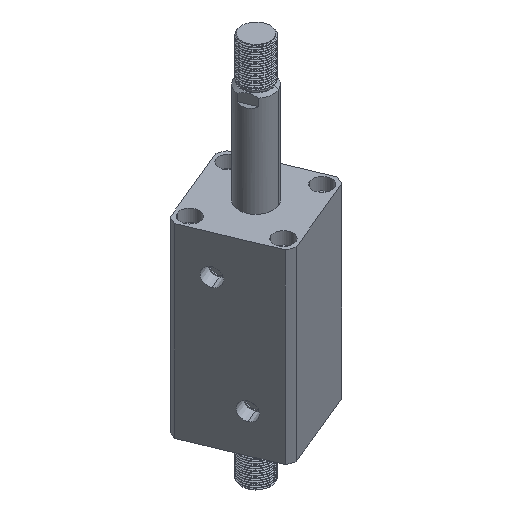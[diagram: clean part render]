
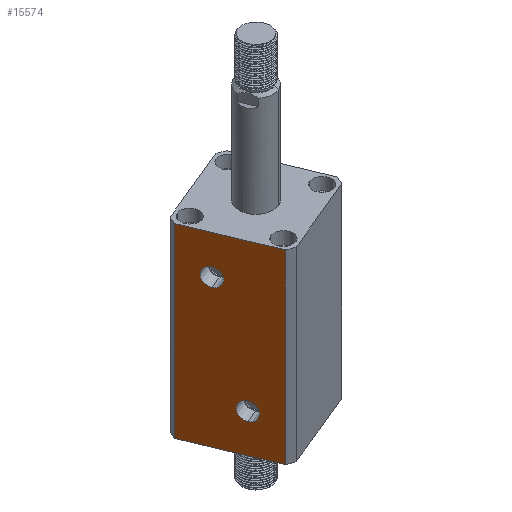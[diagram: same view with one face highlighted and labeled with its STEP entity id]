
A CAD part, isometric view. The second image highlights one B-rep face of the part: STEP entity #15574.
In plain terms, the highlighted planar face has unit normal (-0.924, -0.383, 0) as drawn and (0, 1, 0) by its records, which use the part's own axes.
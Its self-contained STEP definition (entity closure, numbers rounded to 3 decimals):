
#212 = EDGE_CURVE ( 'NONE', #1955, #4485, #7285, .T. ) ;
#334 = EDGE_CURVE ( 'NONE', #16403, #16516, #6435, .T. ) ;
#492 = DIRECTION ( 'NONE',  ( -1., 0., 0. ) ) ;
#505 = CARTESIAN_POINT ( 'NONE',  ( -35., 35., 135. ) ) ;
#574 = EDGE_CURVE ( 'NONE', #13343, #1855, #16050, .T. ) ;
#705 = VECTOR ( 'NONE', #8515, 1000. ) ;
#821 = CARTESIAN_POINT ( 'NONE',  ( 10., 35., 107. ) ) ;
#1001 = VECTOR ( 'NONE', #492, 1000. ) ;
#1136 = LINE ( 'NONE', #9906, #705 ) ;
#1432 = FACE_BOUND ( 'NONE', #15073, .T. ) ;
#1561 = AXIS2_PLACEMENT_3D ( 'NONE', #13019, #4903, #14407 ) ;
#1665 = ORIENTED_EDGE ( 'NONE', *, *, #8867, .F. ) ;
#1855 = VERTEX_POINT ( 'NONE', #5509 ) ;
#1868 = DIRECTION ( 'NONE',  ( 0., 0., -1. ) ) ;
#1955 = VERTEX_POINT ( 'NONE', #13696 ) ;
#2185 = DIRECTION ( 'NONE',  ( 0., 0., 1. ) ) ;
#3162 = CIRCLE ( 'NONE', #5890, 6.532 ) ;
#3761 = CARTESIAN_POINT ( 'NONE',  ( -10., 35., 28. ) ) ;
#3817 = DIRECTION ( 'NONE',  ( 0., 0., 1. ) ) ;
#3878 = DIRECTION ( 'NONE',  ( 0., 1., 0. ) ) ;
#3932 = AXIS2_PLACEMENT_3D ( 'NONE', #3761, #3878, #3817 ) ;
#4485 = VERTEX_POINT ( 'NONE', #5767 ) ;
#4588 = LINE ( 'NONE', #8534, #1001 ) ;
#4619 = EDGE_CURVE ( 'NONE', #16403, #11564, #1136, .T. ) ;
#4745 = EDGE_LOOP ( 'NONE', ( #17336, #14105, #7708, #6779 ) ) ;
#4903 = DIRECTION ( 'NONE',  ( 0., 1., 0. ) ) ;
#4999 = FACE_BOUND ( 'NONE', #13500, .T. ) ;
#5509 = CARTESIAN_POINT ( 'NONE',  ( 10., 35., 113.532 ) ) ;
#5574 = DIRECTION ( 'NONE',  ( 0., 0., 1. ) ) ;
#5767 = CARTESIAN_POINT ( 'NONE',  ( -10., 35., 21.468 ) ) ;
#5890 = AXIS2_PLACEMENT_3D ( 'NONE', #821, #10252, #2185 ) ;
#5993 = CARTESIAN_POINT ( 'NONE',  ( -30.615, 35., -165. ) ) ;
#6435 = LINE ( 'NONE', #12081, #13687 ) ;
#6534 = CARTESIAN_POINT ( 'NONE',  ( -30.615, 35., 0. ) ) ;
#6779 = ORIENTED_EDGE ( 'NONE', *, *, #9775, .F. ) ;
#6918 = CARTESIAN_POINT ( 'NONE',  ( 30.615, 35., 135. ) ) ;
#7285 = CIRCLE ( 'NONE', #3932, 6.532 ) ;
#7708 = ORIENTED_EDGE ( 'NONE', *, *, #15068, .F. ) ;
#8325 = AXIS2_PLACEMENT_3D ( 'NONE', #15119, #12337, #5574 ) ;
#8515 = DIRECTION ( 'NONE',  ( 0., 0., 1. ) ) ;
#8534 = CARTESIAN_POINT ( 'NONE',  ( -35., 35., 135. ) ) ;
#8690 = DIRECTION ( 'NONE',  ( 0., 0., -1. ) ) ;
#8768 = ORIENTED_EDGE ( 'NONE', *, *, #16367, .F. ) ;
#8801 = ORIENTED_EDGE ( 'NONE', *, *, #574, .F. ) ;
#8867 = EDGE_CURVE ( 'NONE', #1855, #13343, #3162, .T. ) ;
#9775 = EDGE_CURVE ( 'NONE', #11564, #15955, #4588, .T. ) ;
#9816 = PLANE ( 'NONE',  #10772 ) ;
#9906 = CARTESIAN_POINT ( 'NONE',  ( 30.615, 35., -165. ) ) ;
#9936 = DIRECTION ( 'NONE',  ( 0., -1., 0. ) ) ;
#9945 = CARTESIAN_POINT ( 'NONE',  ( 10., 35., 100.468 ) ) ;
#10252 = DIRECTION ( 'NONE',  ( 0., 1., 0. ) ) ;
#10772 = AXIS2_PLACEMENT_3D ( 'NONE', #505, #9936, #1868 ) ;
#11564 = VERTEX_POINT ( 'NONE', #6918 ) ;
#11775 = FACE_OUTER_BOUND ( 'NONE', #4745, .T. ) ;
#11978 = ORIENTED_EDGE ( 'NONE', *, *, #212, .F. ) ;
#12081 = CARTESIAN_POINT ( 'NONE',  ( -35., 35., 0. ) ) ;
#12337 = DIRECTION ( 'NONE',  ( 0., 1., 0. ) ) ;
#12881 = DIRECTION ( 'NONE',  ( -1., 0., 0. ) ) ;
#13019 = CARTESIAN_POINT ( 'NONE',  ( -10., 35., 28. ) ) ;
#13343 = VERTEX_POINT ( 'NONE', #9945 ) ;
#13481 = CIRCLE ( 'NONE', #1561, 6.532 ) ;
#13500 = EDGE_LOOP ( 'NONE', ( #1665, #8801 ) ) ;
#13687 = VECTOR ( 'NONE', #12881, 1000. ) ;
#13696 = CARTESIAN_POINT ( 'NONE',  ( -10., 35., 34.532 ) ) ;
#14105 = ORIENTED_EDGE ( 'NONE', *, *, #334, .T. ) ;
#14407 = DIRECTION ( 'NONE',  ( 0., 0., 1. ) ) ;
#15068 = EDGE_CURVE ( 'NONE', #15955, #16516, #16933, .T. ) ;
#15073 = EDGE_LOOP ( 'NONE', ( #11978, #8768 ) ) ;
#15119 = CARTESIAN_POINT ( 'NONE',  ( 10., 35., 107. ) ) ;
#15574 = ADVANCED_FACE ( 'NONE', ( #1432, #4999, #11775 ), #9816, .F. ) ;
#15785 = CARTESIAN_POINT ( 'NONE',  ( 30.615, 35., 0. ) ) ;
#15955 = VERTEX_POINT ( 'NONE', #17423 ) ;
#16050 = CIRCLE ( 'NONE', #8325, 6.532 ) ;
#16367 = EDGE_CURVE ( 'NONE', #4485, #1955, #13481, .T. ) ;
#16403 = VERTEX_POINT ( 'NONE', #15785 ) ;
#16516 = VERTEX_POINT ( 'NONE', #6534 ) ;
#16933 = LINE ( 'NONE', #5993, #17368 ) ;
#17336 = ORIENTED_EDGE ( 'NONE', *, *, #4619, .F. ) ;
#17368 = VECTOR ( 'NONE', #8690, 1000. ) ;
#17423 = CARTESIAN_POINT ( 'NONE',  ( -30.615, 35., 135. ) ) ;
